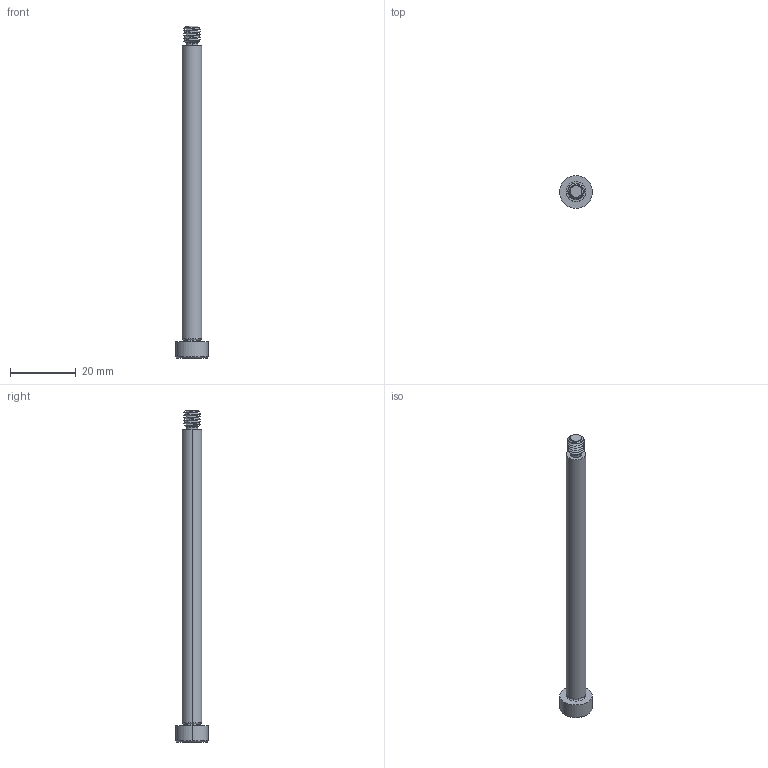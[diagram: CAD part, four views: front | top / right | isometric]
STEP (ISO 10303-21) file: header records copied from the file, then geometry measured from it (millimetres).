
FILE_DESCRIPTION (( 'STEP AP203' ), '1' );
FILE_NAME ('P0130.060-090-B2.step', '2021-11-09T21:31:42', ( '' ), ( '' ), 'SwSTEP 2.0', 'SolidWorks 2019', '' );
FILE_SCHEMA (( 'CONFIG_CONTROL_DESIGN' ));
Length unit declared in the file: millimetre
Products named in the file (1): P0130.060-090-B2
Bounding box: 10 x 10 x 101 mm (x, y, z)
Volume: 2990.9 mm3; surface area: 2184 mm2
Topology: 1 solids, 1 shells, 53 faces, 121 edges, 71 vertices
Faces by surface type: cylinder 17, plane 16, cone 14, torus 4, bspline 2
Entity records: 2367 total; most frequent: CARTESIAN_POINT 1186, ORIENTED_EDGE 238, DIRECTION 226, EDGE_CURVE 119, AXIS2_PLACEMENT_3D 92, VERTEX_POINT 71, EDGE_LOOP 56, FACE_OUTER_BOUND 53
